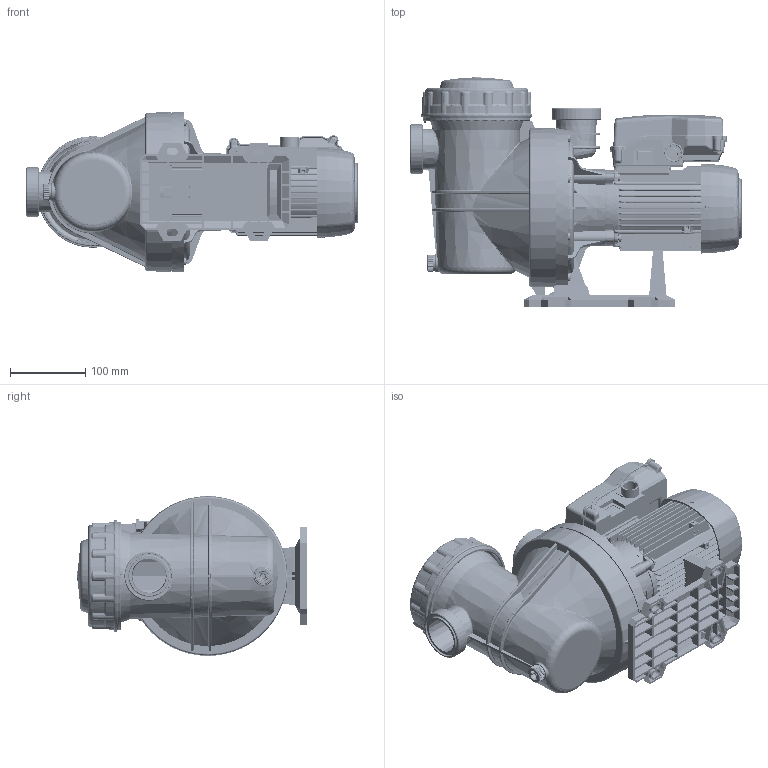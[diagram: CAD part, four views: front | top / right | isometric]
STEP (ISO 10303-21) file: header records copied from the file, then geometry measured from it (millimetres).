
FILE_DESCRIPTION((''),'2;1');
FILE_NAME('SILEN_I-100-15M_ASM','2024-02-22T',('Usuari'),(''),'PRO/ENGINEER BY PARAMETRIC TECHNOLOGY CORPORATION, 2011490','PRO/ENGINEER BY PARAMETRIC TECHNOLOGY CORPORATION, 2011490','');
FILE_SCHEMA(('CONFIG_CONTROL_DESIGN'));
Length unit declared in the file: millimetre
Products named in the file (18): 5824; 1936; 154447; 1141-C; 10450; 10465; 390; 10338; 28; 10394; 10466; 6016; 394; 125476; 11000527_VELL; 129160; 129182; SILEN_I-100-15M_ASM
Assembly tree (28 placements, depth 2):
  SILEN_I-100-15M_ASM
    5824
    1936
    154447
    1141-C
    10450
    10465
    390
    10338
    28  x12
    10394
    10466
    6016
    394
    125476
    11000527_VELL
    129160
    129182
Bounding box: 439.8 x 306 x 211.95 mm (x, y, z)
Volume: 2258577.6 mm3; surface area: 1290663.9 mm2
Topology: 31 solids, 47 shells, 12288 faces, 30828 edges, 18835 vertices
Faces by surface type: plane 4737, cylinder 2681, bspline 2301, torus 1335, cone 796, sphere 422, extrusion 16
Entity records: 467570 total; most frequent: CARTESIAN_POINT 198235, ORIENTED_EDGE 60094, DIRECTION 51445, EDGE_CURVE 30064, AXIS2_PLACEMENT_3D 19346, VERTEX_POINT 18351, VECTOR 12753, LINE 12737
